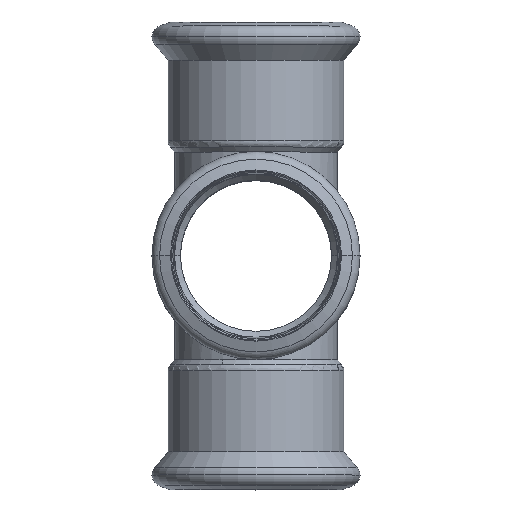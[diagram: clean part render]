
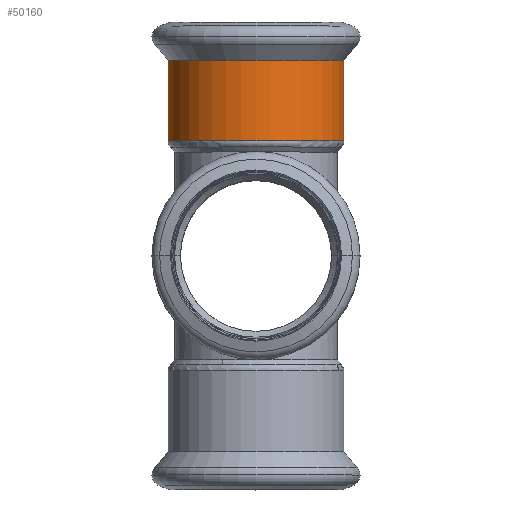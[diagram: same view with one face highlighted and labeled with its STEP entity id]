
A CAD part, top view. The second image highlights one B-rep face of the part: STEP entity #50160.
In plain terms, the highlighted cylindrical face has radius 22.65 mm (diameter 45.3 mm), a partial arc.
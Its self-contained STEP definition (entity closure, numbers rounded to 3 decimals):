
#2800=CARTESIAN_POINT('',(6.028,19.145,
0.));
#2810=VERTEX_POINT('',#2800);
#2860=CARTESIAN_POINT('',(28.678,19.145,
0.));
#2870=DIRECTION('',(0.,1.,0.));
#2880=DIRECTION('',(-1.,0.,0.));
#2890=AXIS2_PLACEMENT_3D('',#2860,#2870,#2880);
#2900=CIRCLE('',#2890,22.65);
#2910=CARTESIAN_POINT('',(51.328,19.145,
0.));
#2920=VERTEX_POINT('',#2910);
#2930=EDGE_CURVE('',#2810,#2920,#2900,.T.);
#49620=CARTESIAN_POINT('',(51.328,39.945,0.));
#49630=VERTEX_POINT('',#49620);
#49680=CARTESIAN_POINT('',(28.678,39.945,0.));
#49690=DIRECTION('',(0.,1.,0.));
#49700=DIRECTION('',(1.,0.,0.));
#49710=AXIS2_PLACEMENT_3D('',#49680,#49690,#49700);
#49720=CIRCLE('',#49710,22.65);
#49730=CARTESIAN_POINT('',(6.028,39.945,
0.));
#49740=VERTEX_POINT('',#49730);
#49750=EDGE_CURVE('',#49740,#49630,#49720,.T.);
#49950=CARTESIAN_POINT('',(28.678,29.545,0.));
#49960=DIRECTION('',(0.,-1.,0.));
#49970=DIRECTION('',(-1.,0.,0.));
#49980=AXIS2_PLACEMENT_3D('',#49950,#49960,#49970);
#49990=CYLINDRICAL_SURFACE('',#49980,22.65);
#50000=CARTESIAN_POINT('',(51.328,29.545,
0.));
#50010=DIRECTION('',(0.,-1.,0.));
#50020=VECTOR('',#50010,1.);
#50030=LINE('',#50000,#50020);
#50040=EDGE_CURVE('',#49630,#2920,#50030,.T.);
#50050=ORIENTED_EDGE('',*,*,#50040,.F.);
#50060=ORIENTED_EDGE('',*,*,#2930,.T.);
#50070=CARTESIAN_POINT('',(6.028,29.545,0.));
#50080=DIRECTION('',(0.,-1.,0.));
#50090=VECTOR('',#50080,1.);
#50100=LINE('',#50070,#50090);
#50110=EDGE_CURVE('',#49740,#2810,#50100,.T.);
#50120=ORIENTED_EDGE('',*,*,#50110,.T.);
#50130=ORIENTED_EDGE('',*,*,#49750,.F.);
#50140=EDGE_LOOP('',(#50130,#50120,#50060,#50050));
#50150=FACE_OUTER_BOUND('',#50140,.T.);
#50160=ADVANCED_FACE('',(#50150),#49990,.T.);
